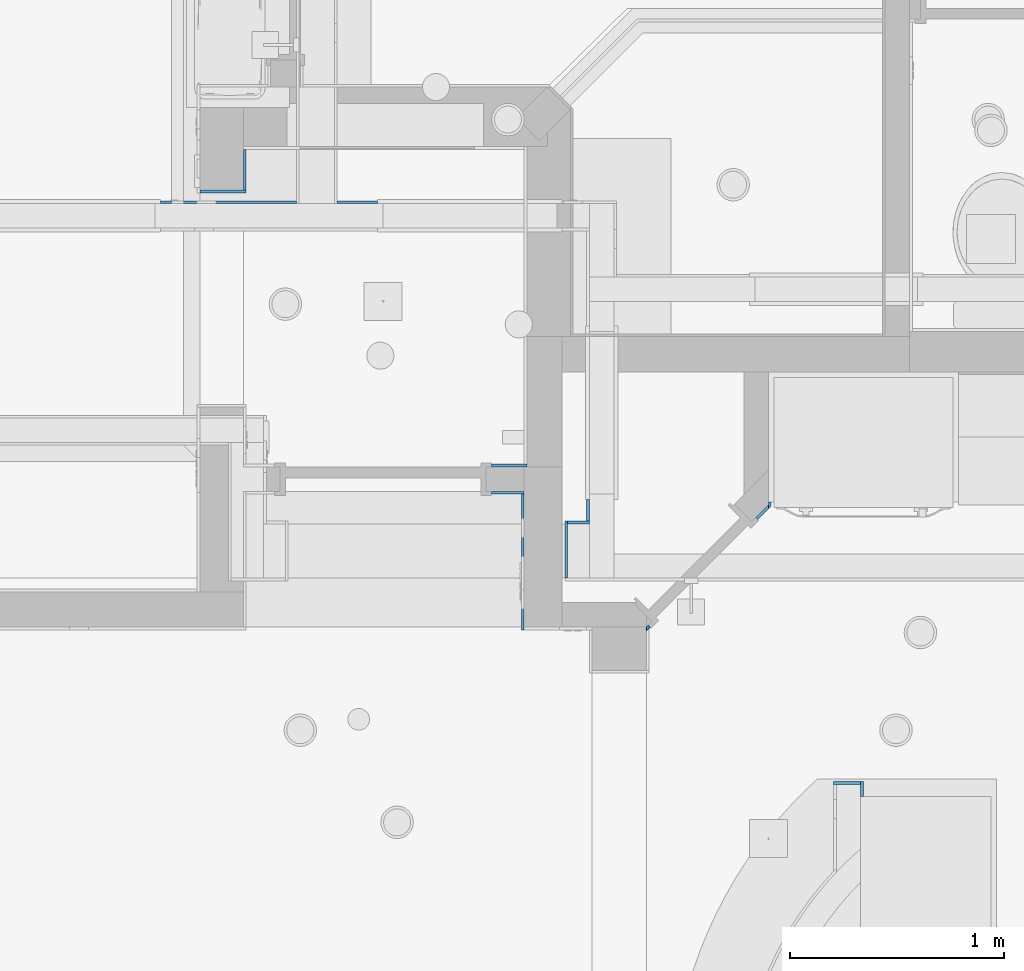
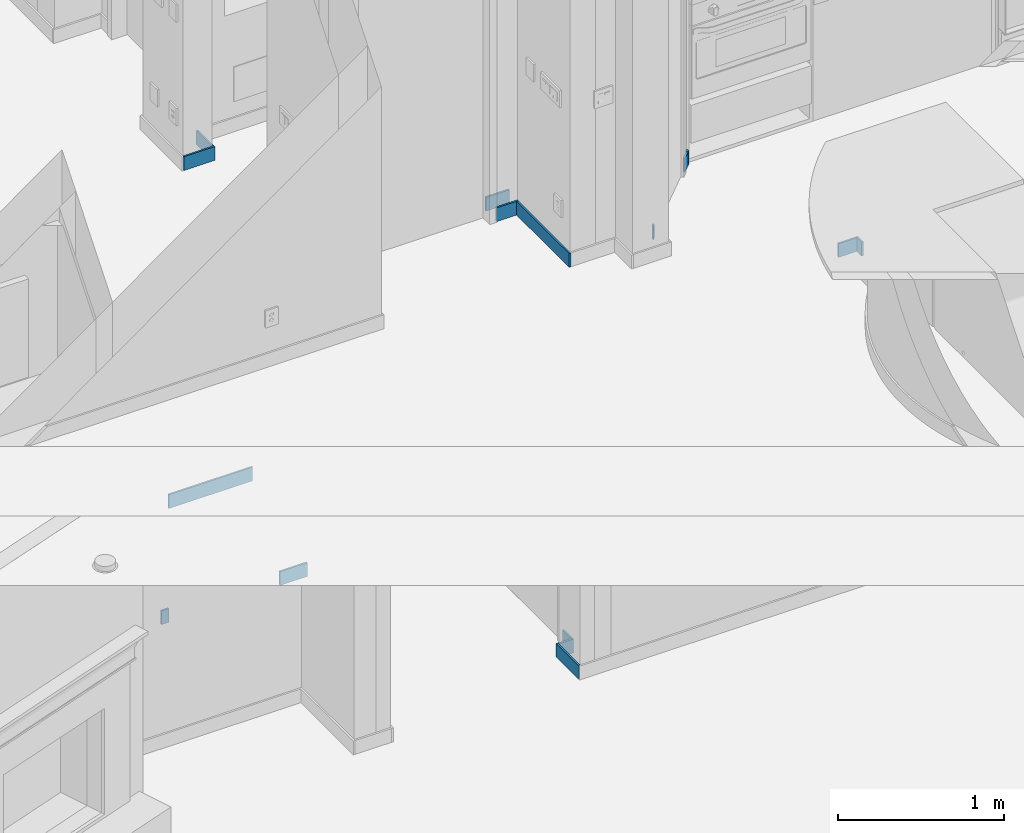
# One storey, part 21 of 60: 16 walls.
"""IFC2X3 building model written with IfcOpenShell, lengths in feet."""

from ifc_helpers import new_model, entity, si_unit, converted_unit, direction, frame, frame_2d, origin, place, context, subcontext, project, spatial, polyline, rectangle, outline, extrude, clip, bounded_halfspace, material, layer, layer_set, layer_usage, type_object, element, save


model = new_model("IFC2X3")

# Units and contexts
model_context = context("Model", 3, precision=0.0001, world=origin(), true_north=direction((6.123031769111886e-17, 1.0)))
plan_context = context("Plan", 3, precision=0.0001, world=origin(), true_north=direction((6.123031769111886e-17, 1.0)))
body_context = subcontext(model_context, "Body", "Model", "MODEL_VIEW")
ifc_project = project(units=[converted_unit("LENGTHUNIT", "FOOT", entity("IfcLengthMeasure", 0.3048), si_unit("LENGTHUNIT", "METRE"), dimensions=[1, 0, 0, 0, 0, 0, 0]), converted_unit("AREAUNIT", "SQUARE FOOT", entity("IfcAreaMeasure", 0.09290304), si_unit("AREAUNIT", "SQUARE_METRE"), dimensions=[2, 0, 0, 0, 0, 0, 0]), converted_unit("PLANEANGLEUNIT", "DEGREE", entity("IfcPlaneAngleMeasure", 0.017453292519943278), si_unit("PLANEANGLEUNIT", "RADIAN"), dimensions=[0, 0, 0, 0, 0, 0, 0])], contexts=[model_context, plan_context])

# Site, building, storey
site_placement = place(None, origin())
site = spatial("IfcSite", under=ifc_project, at=site_placement, Name="Default", CompositionType="ELEMENT")
building_placement = place(site_placement, origin())
building = spatial("IfcBuilding", under=site, at=building_placement, CompositionType="ELEMENT")
storey_placement = place(building_placement, origin())
storey = spatial("IfcBuildingStorey", under=building, at=storey_placement, Name="First floor", CompositionType="ELEMENT", Elevation=0.0)

# Walls
ifc_material = material(Name="Default New Material")
ifc_layer = layer(ifc_material, 0.041666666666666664)
ifc_layer_set = layer_set([ifc_layer], Name="Basic Wall:Wall Border_T1")
ifc_layer_usage_1 = layer_usage(ifc_layer_set, "AXIS2", "POSITIVE", -0.020833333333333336)
wall_type = type_object("IfcWallType", Name="Basic Wall:Wall Border_T1", PredefinedType="STANDARD", material=ifc_layer_set)
wall_1_placement = place(storey_placement, frame((-0.35416666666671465, 31.0, 0.0), z_axis=(0.0, 0.0, 1.0), x_axis=(0.0, -1.0, 0.0)))
element("IfcWallStandardCase", 1, at=wall_1_placement, inside=storey, type_object=wall_type, material=ifc_layer_usage_1, Name="Basic Wall:Wall Border_T1", ObjectType="Basic Wall:Wall Border_T1", context=body_context, shape_type="SweptSolid", body=[
    extrude(rectangle(XDim=0.3333333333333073, YDim=0.04166666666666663, at=frame_2d((0.16666666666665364, -6.938893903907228e-18), x_axis=(-1.0, 0.0))), origin(), (0.0, 0.0, 1.0), 0.3333333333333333),
])
ifc_layer_usage_2 = layer_usage(ifc_layer_set, "AXIS2", "POSITIVE", -0.020833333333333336)
wall_2_placement = place(storey_placement, frame((-0.33333333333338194, 30.64583333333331, 0.0), z_axis=(0.0, 0.0, 1.0), x_axis=(-1.0, 0.0, 0.0)))
element("IfcWallStandardCase", 2, at=wall_2_placement, inside=storey, type_object=wall_type, material=ifc_layer_usage_2, Name="Basic Wall:Wall Border_T1", ObjectType="Basic Wall:Wall Border_T1", context=body_context, shape_type="SweptSolid", body=[
    extrude(rectangle(XDim=0.33333333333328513, YDim=0.0416666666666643, at=frame_2d((0.16666666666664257, 0.0), x_axis=(-1.0, 0.0))), origin(), (0.0, 0.0, 1.0), 0.3333333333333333),
])
ifc_layer_usage_3 = layer_usage(ifc_layer_set, "AXIS2", "POSITIVE", -0.020833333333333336)
wall_3_placement = place(storey_placement, frame((-0.6875000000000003, 30.666666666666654, 0.0), z_axis=(0.0, 0.0, 1.0), x_axis=(0.0, -1.0, 0.0)))
element("IfcWallStandardCase", 3, at=wall_3_placement, inside=storey, type_object=wall_type, material=ifc_layer_usage_3, Name="Basic Wall:Wall Border_T1", ObjectType="Basic Wall:Wall Border_T1", context=body_context, shape_type="SweptSolid", body=[
    extrude(rectangle(XDim=0.8750000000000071, YDim=0.04166666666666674, at=frame_2d((0.43750000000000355, -2.2551405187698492e-17), x_axis=(-1.0, 0.0))), origin(), (0.0, 0.0, 1.0), 0.33333333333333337),
])
ifc_layer_usage_4 = layer_usage(ifc_layer_set, "AXIS2", "POSITIVE", -0.020833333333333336)
wall_4_placement = place(storey_placement, frame((-6.750000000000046, 35.562499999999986, 0.0), z_axis=(0.0, 0.0, 1.0), x_axis=(-1.0, 0.0, 0.0)))
element("IfcWallStandardCase", 4, at=wall_4_placement, inside=storey, type_object=wall_type, material=ifc_layer_usage_4, Name="Basic Wall:Wall Border_T1", ObjectType="Basic Wall:Wall Border_T1", context=body_context, shape_type="SweptSolid", body=[
    extrude(rectangle(XDim=0.166666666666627, YDim=0.041666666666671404, at=frame_2d((0.0833333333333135, 0.0), x_axis=(-1.0, 0.0))), origin(), (0.0, 0.0, 1.0), 0.3333333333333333),
])
ifc_layer_usage_5 = layer_usage(ifc_layer_set, "AXIS2", "POSITIVE", -0.020833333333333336)
wall_5_placement = place(storey_placement, frame((-3.5833333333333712, 35.56249999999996, 0.0), z_axis=(0.0, 0.0, 1.0), x_axis=(-1.0, 0.0, 0.0)))
element("IfcWallStandardCase", 5, at=wall_5_placement, inside=storey, type_object=wall_type, material=ifc_layer_usage_5, Name="Basic Wall:Wall Border_T1", ObjectType="Basic Wall:Wall Border_T1", context=body_context, shape_type="Clipping", body=[
    clip(extrude(rectangle(XDim=0.6249999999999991, YDim=0.041666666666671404, at=frame_2d((0.31249999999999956, 0.0), x_axis=(-1.0, 0.0))), origin(), (0.0, 0.0, 1.0), 0.3333333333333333), bounded_halfspace(frame((0.6249999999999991, -0.020833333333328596, 0.3333333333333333), z_axis=(-1.0, 0.0, 0.0), x_axis=(0.0, -1.0, 0.0)), True, frame((0.6249999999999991, -0.020833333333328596, 0.3333333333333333), z_axis=(-1.0, 0.0, 0.0), x_axis=(0.0, -1.0, 0.0)), polyline([(0.0, 0.0), (-0.0416666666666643, 0.0), (-0.0416666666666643, -0.3333333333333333), (0.0, -0.3333333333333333), (0.0, 0.0)]))),
])
ifc_layer_usage_6 = layer_usage(ifc_layer_set, "AXIS2", "NEGATIVE", 0.020833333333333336)
wall_6_placement = place(storey_placement, frame((-1.8333333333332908, 31.52083333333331, 10.666666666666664)))
element("IfcWallStandardCase", 6, at=wall_6_placement, inside=storey, type_object=wall_type, material=ifc_layer_usage_6, Name="Basic Wall:Wall Border_T1", ObjectType="Basic Wall:Wall Border_T1", context=body_context, shape_type="SweptSolid", body=[
    extrude(rectangle(XDim=0.541666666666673, YDim=0.0416666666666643, at=frame_2d((0.2708333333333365, 0.0), x_axis=(-1.0, 0.0))), origin(), (0.0, 0.0, 1.0), 0.3333333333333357),
])
ifc_layer_usage_7 = layer_usage(ifc_layer_set, "AXIS2", "NEGATIVE", 0.020833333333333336)
wall_7_placement = place(storey_placement, frame((-6.312500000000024, 35.72916666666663, 10.666666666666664)))
element("IfcWallStandardCase", 7, at=wall_7_placement, inside=storey, type_object=wall_type, material=ifc_layer_usage_7, Name="Basic Wall:Wall Border_T1", ObjectType="Basic Wall:Wall Border_T1", context=body_context, shape_type="SweptSolid", body=[
    extrude(rectangle(XDim=0.7083333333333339, YDim=0.041666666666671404, at=frame_2d((0.35416666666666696, -1.2819606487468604e-15), x_axis=(-1.0, 0.0))), origin(), (0.0, 0.0, 1.0), 0.3333333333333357),
])
ifc_layer_usage_8 = layer_usage(ifc_layer_set, "AXIS2", "NEGATIVE", 0.020833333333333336)
wall_8_placement = place(storey_placement, frame((-5.625000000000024, 35.74999999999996, 10.666666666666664), z_axis=(0.0, 0.0, 1.0), x_axis=(0.0, 1.0, 0.0)))
element("IfcWallStandardCase", 8, at=wall_8_placement, inside=storey, type_object=wall_type, material=ifc_layer_usage_8, Name="Basic Wall:Wall Border_T1", ObjectType="Basic Wall:Wall Border_T1", context=body_context, shape_type="SweptSolid", body=[
    extrude(rectangle(XDim=0.625, YDim=0.041666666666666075, at=frame_2d((0.3125, 1.1275702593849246e-16), x_axis=(-1.0, 0.0))), origin(), (0.0, 0.0, 1.0), 0.3333333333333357),
])
ifc_layer_usage_9 = layer_usage(ifc_layer_set, "AXIS2", "POSITIVE", -0.020833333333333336)
wall_9_placement = place(storey_placement, frame((-1.833333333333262, 31.104166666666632, 10.666666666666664)))
element("IfcWallStandardCase", 9, at=wall_9_placement, inside=storey, type_object=wall_type, material=ifc_layer_usage_9, Name="Basic Wall:Wall Border_T1", ObjectType="Basic Wall:Wall Border_T1", context=body_context, shape_type="SweptSolid", body=[
    extrude(rectangle(XDim=0.49999999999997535, YDim=0.0416666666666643, at=frame_2d((0.24999999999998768, 0.0), x_axis=(-1.0, 0.0))), origin(), (0.0, 0.0, 1.0), 0.3333333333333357),
])
ifc_layer_usage_10 = layer_usage(ifc_layer_set, "AXIS2", "POSITIVE", -0.020833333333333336)
wall_10_placement = place(storey_placement, frame((-1.3541666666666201, 31.083333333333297, 10.666666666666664), z_axis=(0.0, 0.0, 1.0), x_axis=(0.0, -1.0, 0.0)))
element("IfcWallStandardCase", 10, at=wall_10_placement, inside=storey, type_object=wall_type, material=ifc_layer_usage_10, Name="Basic Wall:Wall Border_T1", ObjectType="Basic Wall:Wall Border_T1", context=body_context, shape_type="SweptSolid", body=[
    extrude(rectangle(XDim=2.0833333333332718, YDim=0.04166666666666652, at=frame_2d((1.0416666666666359, 3.469446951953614e-17), x_axis=(-1.0, 0.0))), origin(), (0.0, 0.0, 1.0), 0.3333333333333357),
])
ifc_layer_usage_11 = layer_usage(ifc_layer_set, "AXIS2", "POSITIVE", -0.020833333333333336)
wall_11_placement = place(storey_placement, frame((0.5269352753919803, 28.997472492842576, 10.666666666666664), z_axis=(0.0, 0.0, 1.0), x_axis=(0.7071067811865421, 0.7071067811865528, 0.0)))
element("IfcWallStandardCase", 11, at=wall_11_placement, inside=storey, type_object=wall_type, material=ifc_layer_usage_11, Name="Basic Wall:Wall Border_T1", ObjectType="Basic Wall:Wall Border_T1", context=body_context, shape_type="SweptSolid", body=[
    extrude(outline(polyline([(0.0834604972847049, -0.020833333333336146), (0.08346049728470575, 0.020833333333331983), (0.0416666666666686, 0.020833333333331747), (0.0, -0.02083333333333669), (0.05892556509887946, -0.02083333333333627), (0.0834604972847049, -0.020833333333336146)])), origin(), (0.0, 0.0, 1.0), 0.3333333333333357),
])
ifc_layer_usage_12 = layer_usage(ifc_layer_set, "AXIS2", "POSITIVE", -0.020833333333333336)
wall_12_placement = place(storey_placement, frame((2.23586658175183, 30.706403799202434, 10.666666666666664), z_axis=(0.0, 0.0, 1.0), x_axis=(0.7071067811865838, 0.7071067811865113, 0.0)))
element("IfcWallStandardCase", 12, at=wall_12_placement, inside=storey, type_object=wall_type, material=ifc_layer_usage_12, Name="Basic Wall:Wall Border_T1", ObjectType="Basic Wall:Wall Border_T1", context=body_context, shape_type="SweptSolid", body=[
    extrude(outline(polyline([(0.2343798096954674, -0.020833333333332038), (0.27604647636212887, 0.02083333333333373), (0.0, 0.02083333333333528), (0.0, -0.0208333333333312), (0.2343798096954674, -0.020833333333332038)])), origin(), (0.0, 0.0, 1.0), 0.3333333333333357),
])
ifc_layer_usage_13 = layer_usage(ifc_layer_set, "AXIS2", "NEGATIVE", 0.020833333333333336)
wall_13_placement = place(storey_placement, frame((2.437162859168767, 30.958333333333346, 10.666666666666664), z_axis=(0.0, 0.0, 1.0), x_axis=(0.0, -1.0, 0.0)))
element("IfcWallStandardCase", 13, at=wall_13_placement, inside=storey, type_object=wall_type, material=ifc_layer_usage_13, Name="Basic Wall:Wall Border_T1", ObjectType="Basic Wall:Wall Border_T1", context=body_context, shape_type="SweptSolid", body=[
    extrude(outline(polyline([(0.1009293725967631, -0.020833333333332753), (0.05926270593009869, 0.020833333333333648), (0.0, 0.02083333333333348), (0.0, -0.020833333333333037), (0.0420038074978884, -0.02083333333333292), (0.1009293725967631, -0.020833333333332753)])), origin(), (0.0, 0.0, 1.0), 0.3333333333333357),
])
ifc_layer_usage_14 = layer_usage(ifc_layer_set, "AXIS2", "NEGATIVE", 0.020833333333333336)
wall_14_placement = place(storey_placement, frame((3.8541666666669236, 26.437500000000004, 10.666666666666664), z_axis=(0.0, 0.0, 1.0), x_axis=(0.0, 1.0, 0.0)))
element("IfcWallStandardCase", 14, at=wall_14_placement, inside=storey, type_object=wall_type, material=ifc_layer_usage_14, Name="Basic Wall:Wall Border_T1", ObjectType="Basic Wall:Wall Border_T1", context=body_context, shape_type="SweptSolid", body=[
    extrude(rectangle(XDim=0.2291666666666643, YDim=0.04166666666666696, at=frame_2d((0.11458333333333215, -3.469446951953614e-18), x_axis=(-1.0, 0.0))), origin(), (0.0, 0.0, 1.0), 0.3333333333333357),
])
ifc_layer_usage_15 = layer_usage(ifc_layer_set, "AXIS2", "NEGATIVE", 0.020833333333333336)
wall_15_placement = place(storey_placement, frame((3.8333333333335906, 26.645833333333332, 10.666666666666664), z_axis=(0.0, 0.0, 1.0), x_axis=(-1.0, 0.0, 0.0)))
element("IfcWallStandardCase", 15, at=wall_15_placement, inside=storey, type_object=wall_type, material=ifc_layer_usage_15, Name="Basic Wall:Wall Border_T1", ObjectType="Basic Wall:Wall Border_T1", context=body_context, shape_type="SweptSolid", body=[
    extrude(rectangle(XDim=0.4166666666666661, YDim=0.0416666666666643, at=frame_2d((0.20833333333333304, 2.6194324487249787e-16), x_axis=(-1.0, 0.0))), origin(), (0.0, 0.0, 1.0), 0.3333333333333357),
])
ifc_layer_usage_16 = layer_usage(ifc_layer_set, "AXIS2", "NEGATIVE", 0.020833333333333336)
wall_16_placement = place(storey_placement, frame((-4.833333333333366, 35.56249999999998, 2.75), z_axis=(0.0, 0.0, 1.0), x_axis=(-1.0, 0.0, 0.0)))
element("IfcWallStandardCase", 16, at=wall_16_placement, inside=storey, type_object=wall_type, material=ifc_layer_usage_16, Name="Basic Wall:Wall Border_T1", ObjectType="Basic Wall:Wall Border_T1", context=body_context, shape_type="SweptSolid", body=[
    extrude(rectangle(XDim=1.9166666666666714, YDim=0.041666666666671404, at=frame_2d((0.9583333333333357, 0.0), x_axis=(-1.0, 0.0))), origin(), (0.0, 0.0, 1.0), 0.3333333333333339),
])

save(model, "model.ifc")
